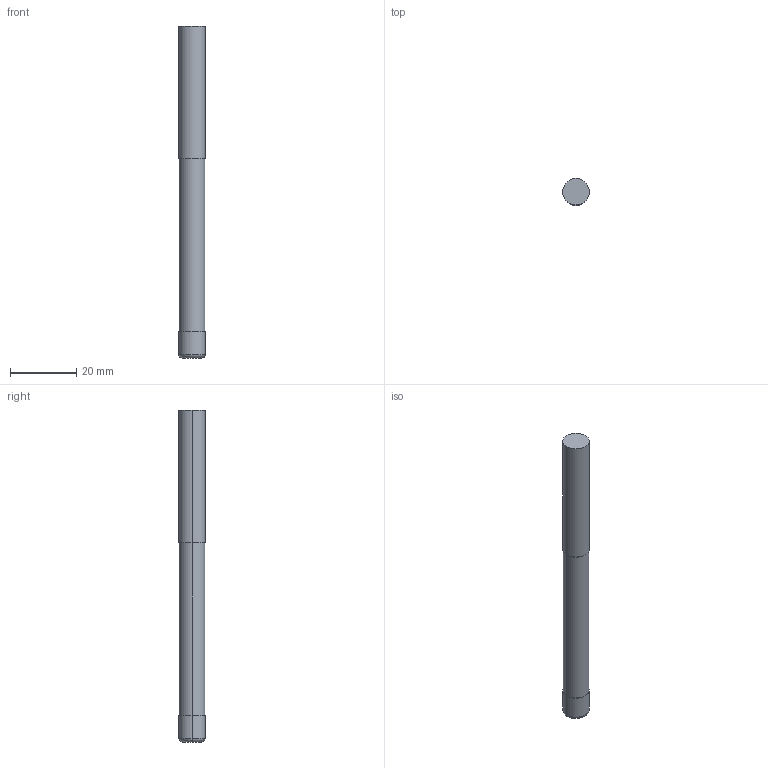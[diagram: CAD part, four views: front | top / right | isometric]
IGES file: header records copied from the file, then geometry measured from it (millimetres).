
Start section: 3D InterOp IGES (v. 2020 1.0.1), Spatial Corp. Copyright (c) 1999-2017.
Global section: file name: WZF17426_8_1.igs; native system: Spatial Corp.; preprocessor: 3D InterOp GENERIC/IGES 3.0; author: Noname; organization: Noname; date: 20201007.092703; units: metre
Bounding box: 8 x 8 x 100 mm (x, y, z)
Surface area: 2561 mm2 (no closed solid volume)
Topology: 0 solids, 0 shells, 12 faces, 44 edges, 44 vertices
Faces by surface type: revolution 8, extrusion 4
